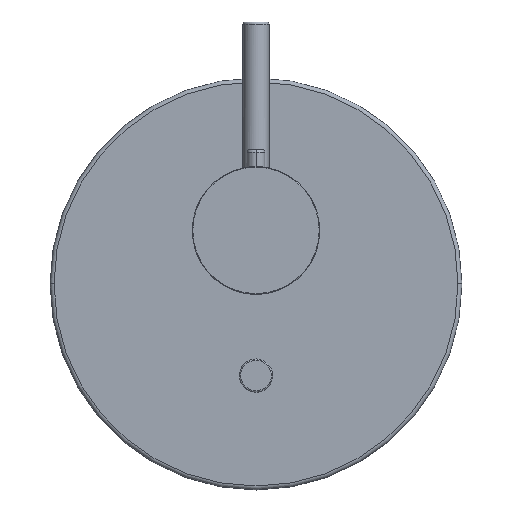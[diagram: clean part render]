
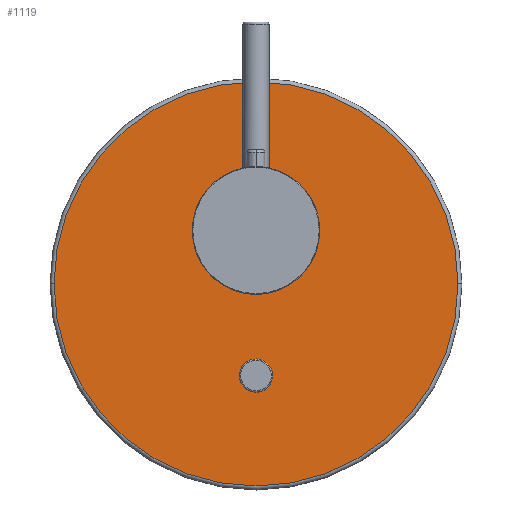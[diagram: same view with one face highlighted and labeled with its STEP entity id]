
A CAD part, top view. The second image highlights one B-rep face of the part: STEP entity #1119.
In plain terms, the highlighted planar face has unit normal (0, 0, 1).
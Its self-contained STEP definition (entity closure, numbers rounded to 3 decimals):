
#363=CARTESIAN_POINT('',(0.,-54.5,30.5));
#364=DIRECTION('',(0.,0.,1.));
#365=DIRECTION('',(-1.,0.017,0.));
#366=AXIS2_PLACEMENT_3D('',#363,#364,#365);
#381=CARTESIAN_POINT('',(0.,-20.,30.5));
#382=DIRECTION('',(0.,0.,-1.));
#383=DIRECTION('',(-1.,0.,0.));
#384=AXIS2_PLACEMENT_3D('',#381,#382,#383);
#386=CARTESIAN_POINT('',(0.,-20.,30.5));
#387=DIRECTION('',(0.,0.,-1.));
#388=DIRECTION('',(1.,0.,0.));
#389=AXIS2_PLACEMENT_3D('',#386,#387,#388);
#429=CARTESIAN_POINT('',(0.,-54.5,30.5));
#430=DIRECTION('',(0.,0.,1.));
#431=DIRECTION('',(1.,-0.017,0.));
#432=AXIS2_PLACEMENT_3D('',#429,#430,#431);
#443=CARTESIAN_POINT('',(0.,0.,30.5));
#444=DIRECTION('',(0.,0.,1.));
#445=DIRECTION('',(-1.,0.,0.));
#446=AXIS2_PLACEMENT_3D('',#443,#444,#445);
#453=CARTESIAN_POINT('',(0.,0.,30.5));
#454=DIRECTION('',(0.,0.,1.));
#455=DIRECTION('',(1.,0.,0.));
#456=AXIS2_PLACEMENT_3D('',#453,#454,#455);
#671=CARTESIAN_POINT('',(-76.,-20.,30.5));
#672=CARTESIAN_POINT('',(76.,-20.,30.5));
#673=VERTEX_POINT('',#671);
#674=VERTEX_POINT('',#672);
#727=CARTESIAN_POINT('',(-23.9,0.,30.5));
#728=CARTESIAN_POINT('',(23.9,0.,30.5));
#729=VERTEX_POINT('',#727);
#730=VERTEX_POINT('',#728);
#739=CARTESIAN_POINT('',(6.249,-54.606,30.5));
#740=CARTESIAN_POINT('',(-6.249,-54.394,30.5));
#741=VERTEX_POINT('',#739);
#742=VERTEX_POINT('',#740);
#1097=CARTESIAN_POINT('',(0.,-20.,30.5));
#1098=DIRECTION('',(0.,0.,1.));
#1099=DIRECTION('',(1.,0.,0.));
#1100=AXIS2_PLACEMENT_3D('',#1097,#1098,#1099);
#1101=PLANE('',#1100);
#1103=ORIENTED_EDGE('',*,*,#1102,.T.);
#1105=ORIENTED_EDGE('',*,*,#1104,.T.);
#1106=EDGE_LOOP('',(#1103,#1105));
#1107=FACE_OUTER_BOUND('',#1106,.F.);
#1109=ORIENTED_EDGE('',*,*,#1108,.T.);
#1110=ORIENTED_EDGE('',*,*,#1087,.T.);
#1111=EDGE_LOOP('',(#1109,#1110));
#1112=FACE_BOUND('',#1111,.F.);
#1114=ORIENTED_EDGE('',*,*,#1113,.T.);
#1116=ORIENTED_EDGE('',*,*,#1115,.T.);
#1117=EDGE_LOOP('',(#1114,#1116));
#1118=FACE_BOUND('',#1117,.F.);
#1119=ADVANCED_FACE('',(#1107,#1112,#1118),#1101,.T.);
#367=CIRCLE('',#366,6.25);
#385=CIRCLE('',#384,76.);
#390=CIRCLE('',#389,76.);
#433=CIRCLE('',#432,6.25);
#447=CIRCLE('',#446,23.9);
#457=CIRCLE('',#456,23.9);
#1087=EDGE_CURVE('',#742,#741,#367,.T.);
#1102=EDGE_CURVE('',#673,#674,#385,.T.);
#1104=EDGE_CURVE('',#674,#673,#390,.T.);
#1108=EDGE_CURVE('',#741,#742,#433,.T.);
#1113=EDGE_CURVE('',#729,#730,#447,.T.);
#1115=EDGE_CURVE('',#730,#729,#457,.T.);
